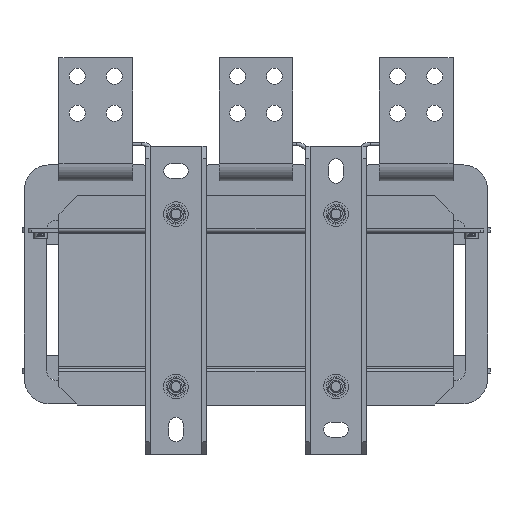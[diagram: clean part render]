
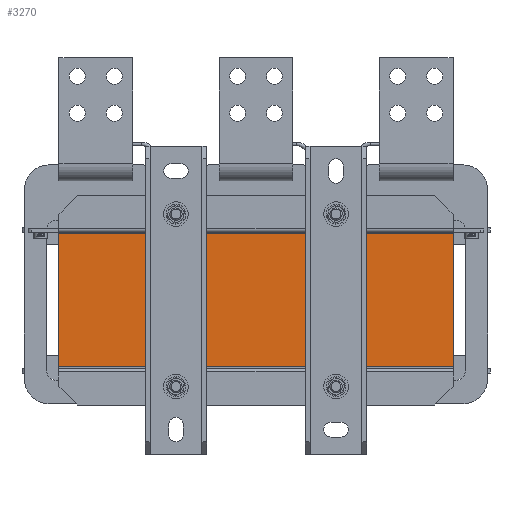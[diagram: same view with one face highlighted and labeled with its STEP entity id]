
A CAD part, front view. The second image highlights one B-rep face of the part: STEP entity #3270.
In plain terms, the highlighted planar face has unit normal (0, -1, 0).
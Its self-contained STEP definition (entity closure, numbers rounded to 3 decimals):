
#3270=ADVANCED_FACE('',(#11338),#11340,.F.);
#11338=FACE_BOUND('',#11339,.T.);
#11339=EDGE_LOOP('',(#22573,#22574,#22575,#22576));
#11340=PLANE('',#11341);
#11341=AXIS2_PLACEMENT_3D('',#11342,#11343,#11344);
#11342=CARTESIAN_POINT('',(-160.,-206.,108.));
#11343=DIRECTION('',(0.,1.,0.));
#11344=DIRECTION('',(-1.,0.,0.));
#22573=ORIENTED_EDGE('',*,*,#26656,.T.);
#22574=ORIENTED_EDGE('',*,*,#26668,.F.);
#22575=ORIENTED_EDGE('',*,*,#26646,.F.);
#22576=ORIENTED_EDGE('',*,*,#26670,.T.);
#26646=EDGE_CURVE('',#28719,#28714,#28721,.T.);
#26656=EDGE_CURVE('',#28741,#28738,#28742,.T.);
#26668=EDGE_CURVE('',#28714,#28738,#28763,.T.);
#26670=EDGE_CURVE('',#28719,#28741,#28765,.T.);
#28714=VERTEX_POINT('',#32248);
#28719=VERTEX_POINT('',#32257);
#28721=LINE('',#32261,#32262);
#28738=VERTEX_POINT('',#32296);
#28741=VERTEX_POINT('',#32301);
#28742=LINE('',#32302,#32303);
#28763=LINE('',#32347,#32348);
#28765=LINE('',#32353,#32354);
#32248=CARTESIAN_POINT('',(160.,-206.,108.));
#32257=CARTESIAN_POINT('',(-160.,-206.,108.));
#32261=CARTESIAN_POINT('',(-160.,-206.,108.));
#32262=VECTOR('',#32263,1.);
#32263=DIRECTION('',(1.,0.,0.));
#32296=CARTESIAN_POINT('',(160.,-206.,0.));
#32301=CARTESIAN_POINT('',(-160.,-206.,0.));
#32302=CARTESIAN_POINT('',(-160.,-206.,0.));
#32303=VECTOR('',#32304,1.);
#32304=DIRECTION('',(1.,0.,0.));
#32347=CARTESIAN_POINT('',(160.,-206.,108.));
#32348=VECTOR('',#32349,1.);
#32349=DIRECTION('',(0.,0.,-1.));
#32353=CARTESIAN_POINT('',(-160.,-206.,108.));
#32354=VECTOR('',#32355,1.);
#32355=DIRECTION('',(0.,0.,-1.));
